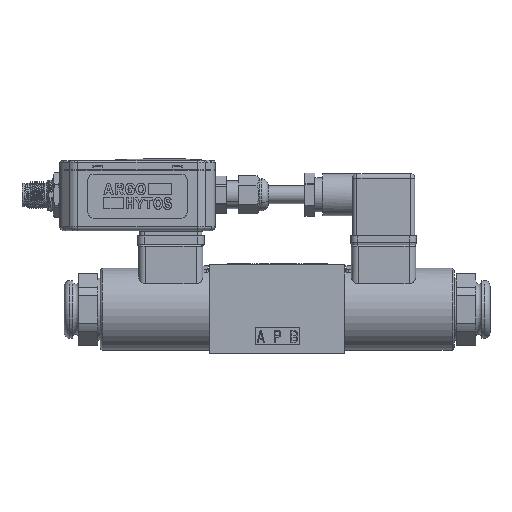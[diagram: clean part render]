
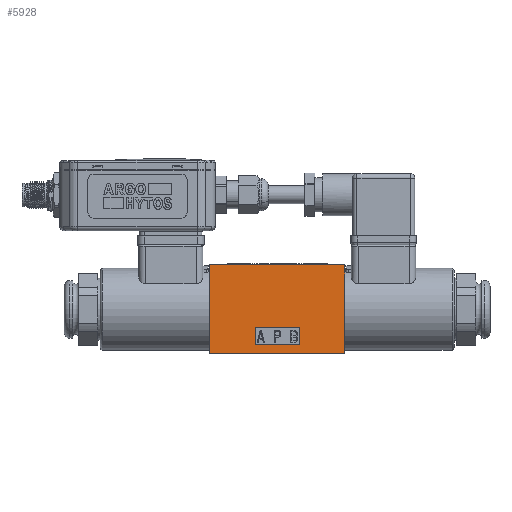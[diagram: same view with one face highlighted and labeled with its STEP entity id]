
A CAD part, top view. The second image highlights one B-rep face of the part: STEP entity #5928.
In plain terms, the highlighted planar face has unit normal (0, 0, 1).
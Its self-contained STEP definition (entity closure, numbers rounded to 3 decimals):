
#649=DIRECTION('',(1.,0.,0.));
#650=VECTOR('',#649,61.);
#651=CARTESIAN_POINT('',(-30.5,-20.,18.));
#652=LINE('',#651,#650);
#656=DIRECTION('',(0.,-1.,0.));
#657=VECTOR('',#656,40.);
#658=CARTESIAN_POINT('',(-30.5,20.,18.));
#659=LINE('',#658,#657);
#663=DIRECTION('',(-1.,0.,0.));
#664=VECTOR('',#663,61.);
#665=CARTESIAN_POINT('',(30.5,20.,18.));
#666=LINE('',#665,#664);
#670=DIRECTION('',(0.,1.,0.));
#671=VECTOR('',#670,40.);
#672=CARTESIAN_POINT('',(30.5,-20.,18.));
#673=LINE('',#672,#671);
#677=DIRECTION('',(1.,0.,0.));
#678=VECTOR('',#677,20.);
#679=CARTESIAN_POINT('',(-10.,-16.,18.));
#680=LINE('',#679,#678);
#684=DIRECTION('',(0.,1.,0.));
#685=VECTOR('',#684,8.);
#686=CARTESIAN_POINT('',(10.,-16.,18.));
#687=LINE('',#686,#685);
#691=DIRECTION('',(-1.,0.,0.));
#692=VECTOR('',#691,20.);
#693=CARTESIAN_POINT('',(10.,-8.,18.));
#694=LINE('',#693,#692);
#698=DIRECTION('',(0.,-1.,0.));
#699=VECTOR('',#698,8.);
#700=CARTESIAN_POINT('',(-10.,-8.,18.));
#701=LINE('',#700,#699);
#4831=CARTESIAN_POINT('',(-30.5,-20.,18.));
#4832=CARTESIAN_POINT('',(30.5,-20.,18.));
#4833=VERTEX_POINT('',#4831);
#4834=VERTEX_POINT('',#4832);
#4835=CARTESIAN_POINT('',(30.5,20.,18.));
#4836=VERTEX_POINT('',#4835);
#4837=CARTESIAN_POINT('',(-30.5,20.,18.));
#4838=VERTEX_POINT('',#4837);
#5167=CARTESIAN_POINT('',(-10.,-16.,18.));
#5168=CARTESIAN_POINT('',(10.,-16.,18.));
#5169=VERTEX_POINT('',#5167);
#5170=VERTEX_POINT('',#5168);
#5171=CARTESIAN_POINT('',(10.,-8.,18.));
#5172=VERTEX_POINT('',#5171);
#5173=CARTESIAN_POINT('',(-10.,-8.,18.));
#5174=VERTEX_POINT('',#5173);
#5907=CARTESIAN_POINT('',(0.,0.,18.));
#5908=DIRECTION('',(0.,0.,1.));
#5909=DIRECTION('',(1.,0.,0.));
#5910=AXIS2_PLACEMENT_3D('',#5907,#5908,#5909);
#5911=PLANE('',#5910);
#5912=ORIENTED_EDGE('',*,*,#5719,.F.);
#5913=ORIENTED_EDGE('',*,*,#5788,.F.);
#5914=ORIENTED_EDGE('',*,*,#5808,.F.);
#5915=ORIENTED_EDGE('',*,*,#5895,.F.);
#5916=EDGE_LOOP('',(#5912,#5913,#5914,#5915));
#5917=FACE_OUTER_BOUND('',#5916,.F.);
#5919=ORIENTED_EDGE('',*,*,#5918,.T.);
#5921=ORIENTED_EDGE('',*,*,#5920,.T.);
#5923=ORIENTED_EDGE('',*,*,#5922,.T.);
#5925=ORIENTED_EDGE('',*,*,#5924,.T.);
#5926=EDGE_LOOP('',(#5919,#5921,#5923,#5925));
#5927=FACE_BOUND('',#5926,.F.);
#5719=EDGE_CURVE('',#4833,#4834,#652,.T.);
#5788=EDGE_CURVE('',#4838,#4833,#659,.T.);
#5808=EDGE_CURVE('',#4836,#4838,#666,.T.);
#5895=EDGE_CURVE('',#4834,#4836,#673,.T.);
#5918=EDGE_CURVE('',#5169,#5170,#680,.T.);
#5920=EDGE_CURVE('',#5170,#5172,#687,.T.);
#5922=EDGE_CURVE('',#5172,#5174,#694,.T.);
#5924=EDGE_CURVE('',#5174,#5169,#701,.T.);
#5928=ADVANCED_FACE('',(#5917,#5927),#5911,.T.);
